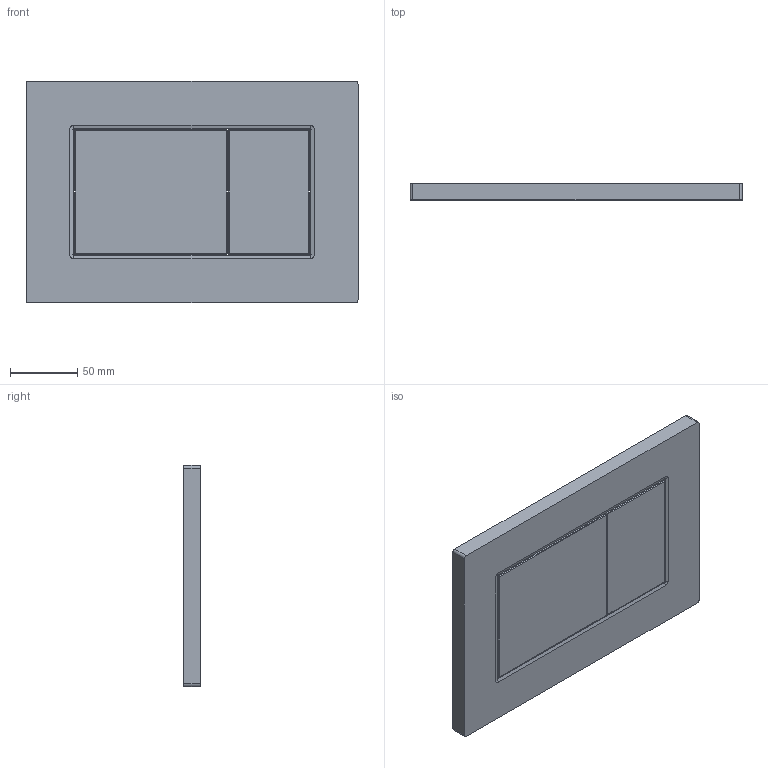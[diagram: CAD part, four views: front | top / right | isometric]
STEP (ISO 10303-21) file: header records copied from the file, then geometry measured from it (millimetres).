
FILE_DESCRIPTION(/* description */ (''),/* implementation_level */ '2;1');
FILE_NAME(/* name */ '115660.stp',/* time_stamp */ '2024-04-24T13:43:03+02:00',/* author */ ('JANAN'),/* organization */ (''),/* preprocessor_version */ 'ST-DEVELOPER v19.2',/* originating_system */ 'Autodesk Inventor 2023',/* authorisation */ '');
FILE_SCHEMA (('AUTOMOTIVE_DESIGN { 1 0 10303 214 3 1 1 }'));
Length unit declared in the file: millimetre
Products named in the file (1): tmp1A3.tmp
Bounding box: 246 x 12 x 164 mm (x, y, z)
Volume: 476065.5 mm3; surface area: 103755.4 mm2
Topology: 3 solids, 3 shells, 62 faces, 144 edges, 80 vertices
Faces by surface type: plane 34, cylinder 16, cone 12
Entity records: 1767 total; most frequent: DIRECTION 298, CARTESIAN_POINT 279, ORIENTED_EDGE 272, EDGE_CURVE 136, LINE 100, VECTOR 100, AXIS2_PLACEMENT_3D 99, VERTEX_POINT 80
